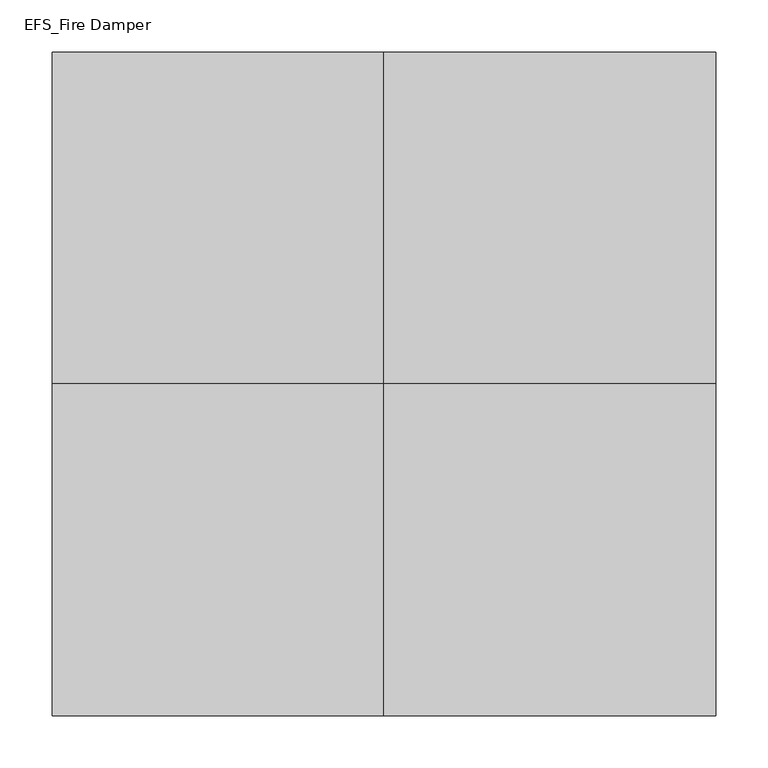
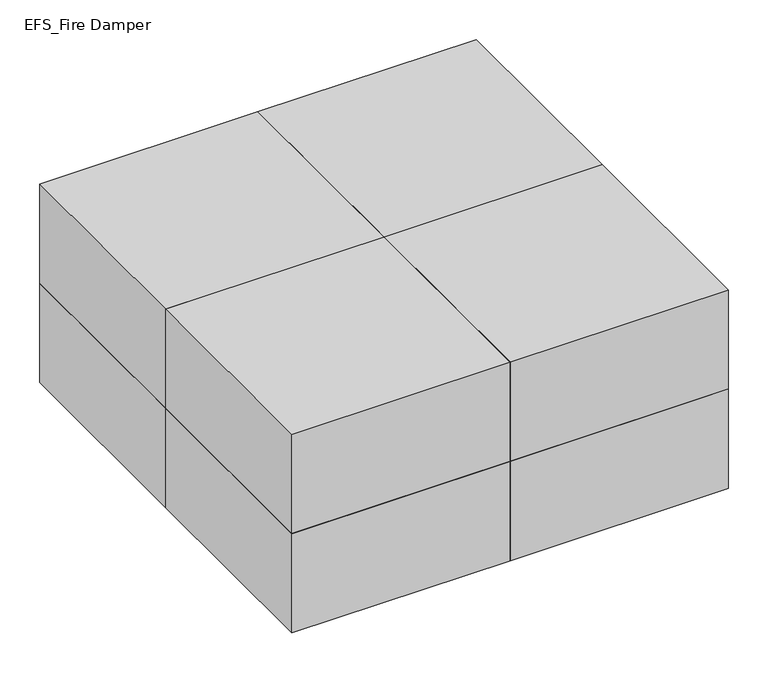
"""IFC4 building model written with IfcOpenShell, lengths in millimetres: proxy geometry, EFS_Fire Damper : Fire Damper(FD)-EFS-F-1.5."""

from ifc_helpers import new_model, si_unit, frame, origin, place, context, project, spatial, polyline, outline, extrude, source, transform, mapped, element, save


def efs_fire_damper_1758a5b7(model_context):
    return source(origin(), model_context, "Body", "SweptSolid", [
        extrude(outline(polyline([(0.0, -318.0), (0.0, 0.0), (318.0, 0.0), (318.0, -318.0), (0.0, -318.0)])), frame((0.0, 0.0, -303.0), z_axis=(0.0, 0.0, 1.0), x_axis=(1.0, 0.0, 0.0)), (0.0, 0.0, 1.0), 153.0),
        extrude(outline(polyline([(0.0, -318.0), (-318.0, -318.0), (-318.0, 0.0), (0.0, 0.0), (0.0, -318.0)])), frame((0.0, 0.0, -303.0), z_axis=(0.0, 0.0, 1.0), x_axis=(1.0, 0.0, 0.0)), (0.0, 0.0, 1.0), 153.0),
        extrude(outline(polyline([(0.0, 318.0), (318.0, 318.0), (318.0, 0.0), (0.0, 0.0), (0.0, 318.0)])), frame((0.0, 0.0, -303.0), z_axis=(0.0, 0.0, 1.0), x_axis=(1.0, 0.0, 0.0)), (0.0, 0.0, 1.0), 153.0),
        extrude(outline(polyline([(0.0, 318.0), (0.0, 0.0), (-318.0, 0.0), (-318.0, 318.0), (0.0, 318.0)])), frame((0.0, 0.0, -303.0), z_axis=(0.0, 0.0, 1.0), x_axis=(1.0, 0.0, 0.0)), (0.0, 0.0, 1.0), 153.0),
        extrude(outline(polyline([(0.0, -318.0), (0.0, 0.0), (318.0, 0.0), (318.0, -318.0), (0.0, -318.0)])), frame((0.0, 0.0, -150.0), z_axis=(0.0, 0.0, 1.0), x_axis=(1.0, 0.0, 0.0)), (0.0, 0.0, 1.0), 153.0),
        extrude(outline(polyline([(0.0, -318.0), (-318.0, -318.0), (-318.0, 0.0), (0.0, 0.0), (0.0, -318.0)])), frame((0.0, 0.0, -150.0), z_axis=(0.0, 0.0, 1.0), x_axis=(1.0, 0.0, 0.0)), (0.0, 0.0, 1.0), 153.0),
        extrude(outline(polyline([(0.0, 318.0), (318.0, 318.0), (318.0, 0.0), (0.0, 0.0), (0.0, 318.0)])), frame((0.0, 0.0, -150.0), z_axis=(0.0, 0.0, 1.0), x_axis=(1.0, 0.0, 0.0)), (0.0, 0.0, 1.0), 153.0),
        extrude(outline(polyline([(0.0, 318.0), (0.0, 0.0), (-318.0, 0.0), (-318.0, 318.0), (0.0, 318.0)])), frame((0.0, 0.0, -150.0), z_axis=(0.0, 0.0, 1.0), x_axis=(1.0, 0.0, 0.0)), (0.0, 0.0, 1.0), 153.0),
    ])


if __name__ == "__main__":
    model = new_model("IFC4")
    model_context = context("Model", 3, world=origin())
    ifc_project = project(units=[si_unit("LENGTHUNIT", "METRE", prefix="MILLI")], contexts=[model_context])
    site = spatial("IfcSite", under=ifc_project)
    building = spatial("IfcBuilding", under=site)
    placement = place(None, origin())
    efs_fire_damper_shape = efs_fire_damper_1758a5b7(model_context)
    element("IfcBuildingElementProxy", 1, Name="EFS_Fire Damper : Fire Damper(FD)-EFS-F-1.5", ObjectType="EFS_Fire Damper : Fire Damper(FD)-EFS-F-1.5", at=placement, inside=building, context=model_context, shape_type="MappedRepresentation", body=[
        mapped(efs_fire_damper_shape, transform((0.0, 0.0, 0.0), x_axis=(1.0, 0.0, 0.0), y_axis=(0.0, 1.0, 0.0), z_axis=(0.0, 0.0, 1.0))),
    ])
    save(model, "model.ifc")
